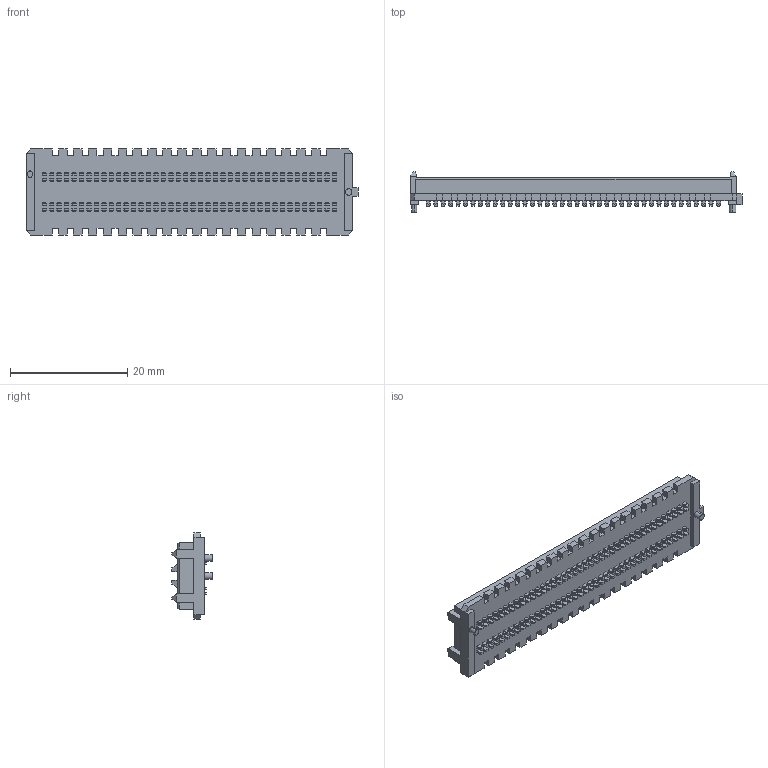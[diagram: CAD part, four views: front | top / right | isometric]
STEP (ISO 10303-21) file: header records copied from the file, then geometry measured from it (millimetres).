
FILE_DESCRIPTION (( 'STEP AP203' ), '1' );
FILE_NAME ('ASP-134606-02.step', '2018-12-19T13:11:40', ( '' ), ( '' ), 'SwSTEP 2.0', 'SolidWorks 2017', '' );
FILE_SCHEMA (( 'CONFIG_CONTROL_DESIGN' ));
Length unit declared in the file: millimetre
Products named in the file (1): ASP-134606-02
Bounding box: 56.67 x 6.88 x 14.68 mm (x, y, z)
Volume: 1972.6 mm3; surface area: 3918.6 mm2
Topology: 2 solids, 2 shells, 4575 faces, 12873 edges, 8468 vertices
Faces by surface type: plane 3449, cylinder 1124, bspline 2
Entity records: 146320 total; most frequent: CARTESIAN_POINT 25943, ORIENTED_EDGE 25746, DIRECTION 24265, EDGE_CURVE 12873, LINE 10621, VECTOR 10621, VERTEX_POINT 8468, AXIS2_PLACEMENT_3D 6822
